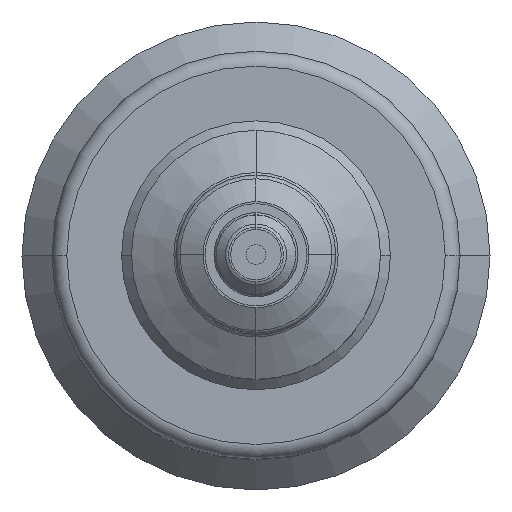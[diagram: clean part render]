
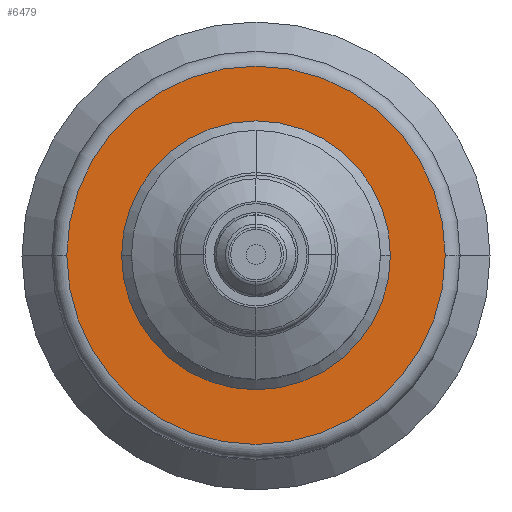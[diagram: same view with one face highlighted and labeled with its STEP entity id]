
A CAD part, top view. The second image highlights one B-rep face of the part: STEP entity #6479.
In plain terms, the highlighted planar face has unit normal (0, 0, 1).
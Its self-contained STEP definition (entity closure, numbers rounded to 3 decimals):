
#1445 = AXIS2_PLACEMENT_3D ( 'NONE', #6930, #6990, #7047 ) ;
#3337 = VERTEX_POINT ( 'NONE', #10108 ) ;
#3596 = VERTEX_POINT ( 'NONE', #3925 ) ;
#3611 = VERTEX_POINT ( 'NONE', #3806 ) ;
#3653 = VERTEX_POINT ( 'NONE', #3805 ) ;
#3805 = CARTESIAN_POINT ( 'NONE',  ( -38., 0., 130. ) ) ;
#3806 = CARTESIAN_POINT ( 'NONE',  ( 27., 0., 130. ) ) ;
#3925 = CARTESIAN_POINT ( 'NONE',  ( 38., 0., 130. ) ) ;
#5515 = DIRECTION ( 'NONE',  ( 0., 0., -1. ) ) ;
#5518 = DIRECTION ( 'NONE',  ( -1., 0., 0. ) ) ;
#5535 = CARTESIAN_POINT ( 'NONE',  ( 0., 0., 130. ) ) ;
#5978 = EDGE_CURVE ( 'NONE', #3653, #3596, #13163, .T. ) ;
#6034 = EDGE_CURVE ( 'NONE', #3596, #3653, #13274, .T. ) ;
#6049 = EDGE_CURVE ( 'NONE', #3337, #3611, #13325, .T. ) ;
#6145 = EDGE_CURVE ( 'NONE', #3611, #3337, #13066, .T. ) ;
#6277 = DIRECTION ( 'NONE',  ( 0., 0., -1. ) ) ;
#6286 = DIRECTION ( 'NONE',  ( -1., 0., 0. ) ) ;
#6288 = CARTESIAN_POINT ( 'NONE',  ( 0., 0., 130. ) ) ;
#6479 = ADVANCED_FACE ( 'NONE', ( #9415, #9416 ), #7015, .T. ) ;
#6930 = CARTESIAN_POINT ( 'NONE',  ( -27., 0., 130. ) ) ;
#6990 = DIRECTION ( 'NONE',  ( 0., 0., 1. ) ) ;
#7015 = PLANE ( 'NONE',  #1445 ) ;
#7047 = DIRECTION ( 'NONE',  ( 1., 0., 0. ) ) ;
#9415 = FACE_BOUND ( 'NONE', #12855, .T. ) ;
#9416 = FACE_OUTER_BOUND ( 'NONE', #12724, .T. ) ;
#10108 = CARTESIAN_POINT ( 'NONE',  ( -27., 0., 130. ) ) ;
#10449 = AXIS2_PLACEMENT_3D ( 'NONE', #12647, #12646, #12645 ) ;
#10505 = AXIS2_PLACEMENT_3D ( 'NONE', #6288, #6277, #6286 ) ;
#10593 = AXIS2_PLACEMENT_3D ( 'NONE', #12595, #12594, #12593 ) ;
#10610 = AXIS2_PLACEMENT_3D ( 'NONE', #5535, #5515, #5518 ) ;
#12593 = DIRECTION ( 'NONE',  ( -1., 0., 0. ) ) ;
#12594 = DIRECTION ( 'NONE',  ( 0., 0., -1. ) ) ;
#12595 = CARTESIAN_POINT ( 'NONE',  ( 0., 0., 130. ) ) ;
#12645 = DIRECTION ( 'NONE',  ( -1., 0., 0. ) ) ;
#12646 = DIRECTION ( 'NONE',  ( 0., 0., -1. ) ) ;
#12647 = CARTESIAN_POINT ( 'NONE',  ( 0., 0., 130. ) ) ;
#12724 = EDGE_LOOP ( 'NONE', ( #12920, #12912 ) ) ;
#12855 = EDGE_LOOP ( 'NONE', ( #12922, #12985 ) ) ;
#12912 = ORIENTED_EDGE ( 'NONE', *, *, #6034, .F. ) ;
#12920 = ORIENTED_EDGE ( 'NONE', *, *, #5978, .F. ) ;
#12922 = ORIENTED_EDGE ( 'NONE', *, *, #6049, .T. ) ;
#12985 = ORIENTED_EDGE ( 'NONE', *, *, #6145, .T. ) ;
#13066 = CIRCLE ( 'NONE', #10505, 27. ) ;
#13163 = CIRCLE ( 'NONE', #10610, 38. ) ;
#13274 = CIRCLE ( 'NONE', #10449, 38. ) ;
#13325 = CIRCLE ( 'NONE', #10593, 27. ) ;
